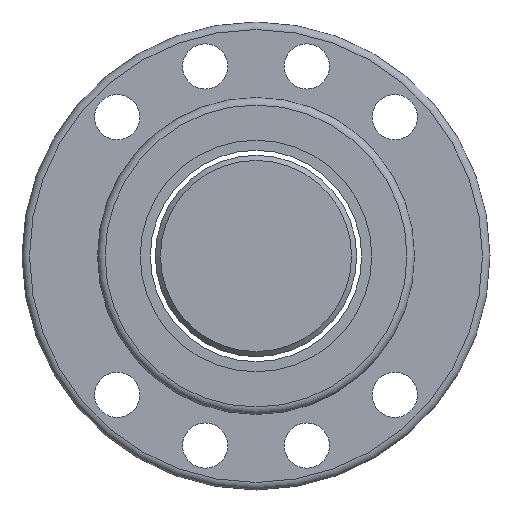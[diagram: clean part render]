
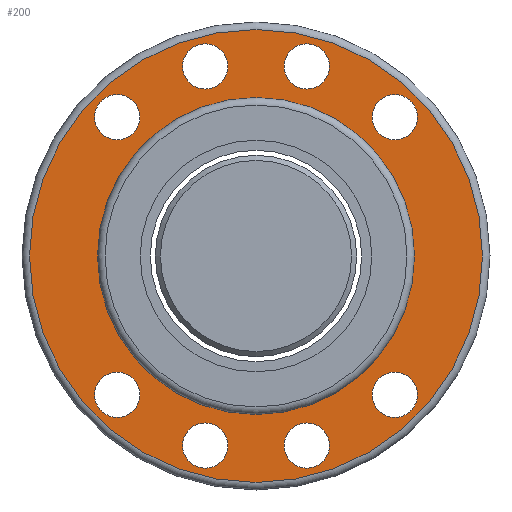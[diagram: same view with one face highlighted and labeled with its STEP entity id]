
A CAD part, left-side view. The second image highlights one B-rep face of the part: STEP entity #200.
In plain terms, the highlighted planar face has unit normal (-1, 0, 0).
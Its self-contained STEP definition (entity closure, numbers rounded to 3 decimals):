
#130=FACE_BOUND('',#261,.T.);
#131=FACE_BOUND('',#262,.T.);
#132=FACE_BOUND('',#263,.T.);
#133=FACE_BOUND('',#264,.T.);
#134=FACE_BOUND('',#265,.T.);
#135=FACE_BOUND('',#266,.T.);
#136=FACE_BOUND('',#267,.T.);
#137=FACE_BOUND('',#268,.T.);
#138=FACE_BOUND('',#270,.T.);
#200=ADVANCED_FACE('',(#130,#131,#132,#133,#134,#135,#136,#137,#244,#138),
#231,.F.);
#231=PLANE('',#560);
#244=FACE_OUTER_BOUND('',#269,.T.);
#261=EDGE_LOOP('',(#343));
#262=EDGE_LOOP('',(#344));
#263=EDGE_LOOP('',(#345));
#264=EDGE_LOOP('',(#346));
#265=EDGE_LOOP('',(#347));
#266=EDGE_LOOP('',(#348));
#267=EDGE_LOOP('',(#349));
#268=EDGE_LOOP('',(#350));
#269=EDGE_LOOP('',(#351));
#270=EDGE_LOOP('',(#352));
#343=ORIENTED_EDGE('',*,*,#462,.T.);
#344=ORIENTED_EDGE('',*,*,#463,.T.);
#345=ORIENTED_EDGE('',*,*,#464,.T.);
#346=ORIENTED_EDGE('',*,*,#465,.T.);
#347=ORIENTED_EDGE('',*,*,#466,.T.);
#348=ORIENTED_EDGE('',*,*,#467,.T.);
#349=ORIENTED_EDGE('',*,*,#468,.T.);
#350=ORIENTED_EDGE('',*,*,#469,.T.);
#351=ORIENTED_EDGE('',*,*,#470,.F.);
#352=ORIENTED_EDGE('',*,*,#471,.T.);
#421=VERTEX_POINT('',#783);
#422=VERTEX_POINT('',#785);
#423=VERTEX_POINT('',#787);
#424=VERTEX_POINT('',#789);
#425=VERTEX_POINT('',#791);
#426=VERTEX_POINT('',#793);
#427=VERTEX_POINT('',#795);
#428=VERTEX_POINT('',#797);
#429=VERTEX_POINT('',#799);
#430=VERTEX_POINT('',#801);
#462=EDGE_CURVE('',#421,#421,#503,.T.);
#463=EDGE_CURVE('',#422,#422,#504,.T.);
#464=EDGE_CURVE('',#423,#423,#505,.T.);
#465=EDGE_CURVE('',#424,#424,#506,.T.);
#466=EDGE_CURVE('',#425,#425,#507,.T.);
#467=EDGE_CURVE('',#426,#426,#508,.T.);
#468=EDGE_CURVE('',#427,#427,#509,.T.);
#469=EDGE_CURVE('',#428,#428,#510,.T.);
#470=EDGE_CURVE('',#429,#429,#511,.T.);
#471=EDGE_CURVE('',#430,#430,#512,.T.);
#503=CIRCLE('',#550,4.5);
#504=CIRCLE('',#551,4.5);
#505=CIRCLE('',#552,4.5);
#506=CIRCLE('',#553,4.5);
#507=CIRCLE('',#554,4.5);
#508=CIRCLE('',#555,4.5);
#509=CIRCLE('',#556,4.5);
#510=CIRCLE('',#557,4.5);
#511=CIRCLE('',#558,45.);
#512=CIRCLE('',#559,31.5);
#550=AXIS2_PLACEMENT_3D('',#782,#636,#637);
#551=AXIS2_PLACEMENT_3D('',#784,#638,#639);
#552=AXIS2_PLACEMENT_3D('',#786,#640,#641);
#553=AXIS2_PLACEMENT_3D('',#788,#642,#643);
#554=AXIS2_PLACEMENT_3D('',#790,#644,#645);
#555=AXIS2_PLACEMENT_3D('',#792,#646,#647);
#556=AXIS2_PLACEMENT_3D('',#794,#648,#649);
#557=AXIS2_PLACEMENT_3D('',#796,#650,#651);
#558=AXIS2_PLACEMENT_3D('',#798,#652,#653);
#559=AXIS2_PLACEMENT_3D('',#800,#654,#655);
#560=AXIS2_PLACEMENT_3D('',#802,#656,#657);
#636=DIRECTION('',(1.,0.,0.));
#637=DIRECTION('',(0.,0.,-1.));
#638=DIRECTION('',(1.,0.,0.));
#639=DIRECTION('',(0.,0.,-1.));
#640=DIRECTION('',(1.,0.,0.));
#641=DIRECTION('',(0.,0.,-1.));
#642=DIRECTION('',(1.,0.,0.));
#643=DIRECTION('',(0.,0.,-1.));
#644=DIRECTION('',(1.,0.,0.));
#645=DIRECTION('',(0.,0.,-1.));
#646=DIRECTION('',(1.,0.,0.));
#647=DIRECTION('',(0.,0.,-1.));
#648=DIRECTION('',(1.,0.,0.));
#649=DIRECTION('',(0.,0.,-1.));
#650=DIRECTION('',(1.,0.,0.));
#651=DIRECTION('',(0.,0.,-1.));
#652=DIRECTION('',(1.,0.,0.));
#653=DIRECTION('',(0.,0.,-1.));
#654=DIRECTION('',(1.,0.,0.));
#655=DIRECTION('',(0.,0.,-1.));
#656=DIRECTION('',(1.,0.,0.));
#657=DIRECTION('',(0.,0.,-1.));
#782=CARTESIAN_POINT('',(-34.,27.58,-27.58));
#783=CARTESIAN_POINT('',(-34.,27.58,-32.08));
#784=CARTESIAN_POINT('',(-34.,-27.58,-27.58));
#785=CARTESIAN_POINT('',(-34.,-27.58,-32.08));
#786=CARTESIAN_POINT('',(-34.,27.58,27.58));
#787=CARTESIAN_POINT('',(-34.,27.58,23.08));
#788=CARTESIAN_POINT('',(-34.,-27.58,27.58));
#789=CARTESIAN_POINT('',(-34.,-27.58,23.08));
#790=CARTESIAN_POINT('',(-34.,10.09,-37.67));
#791=CARTESIAN_POINT('',(-34.,10.09,-42.17));
#792=CARTESIAN_POINT('',(-34.,-10.09,-37.67));
#793=CARTESIAN_POINT('',(-34.,-10.09,-42.17));
#794=CARTESIAN_POINT('',(-34.,-10.09,37.67));
#795=CARTESIAN_POINT('',(-34.,-10.09,33.17));
#796=CARTESIAN_POINT('',(-34.,10.09,37.67));
#797=CARTESIAN_POINT('',(-34.,10.09,33.17));
#798=CARTESIAN_POINT('',(-34.,0.,0.));
#799=CARTESIAN_POINT('',(-34.,0.,-45.));
#800=CARTESIAN_POINT('',(-34.,0.,0.));
#801=CARTESIAN_POINT('',(-34.,0.,-31.5));
#802=CARTESIAN_POINT('',(-34.,38.25,0.));
